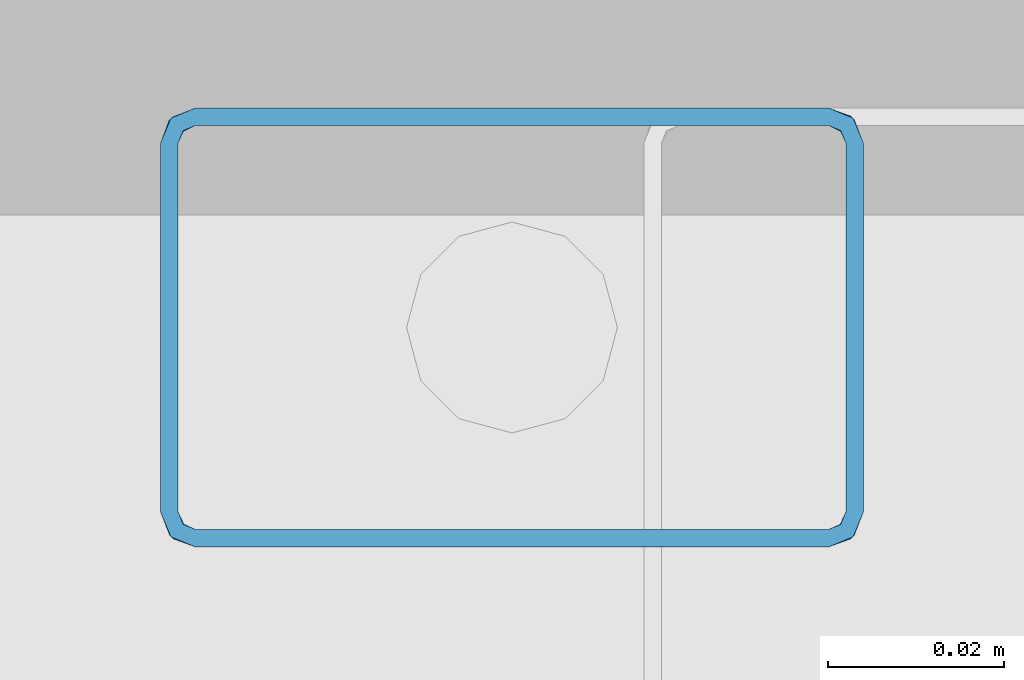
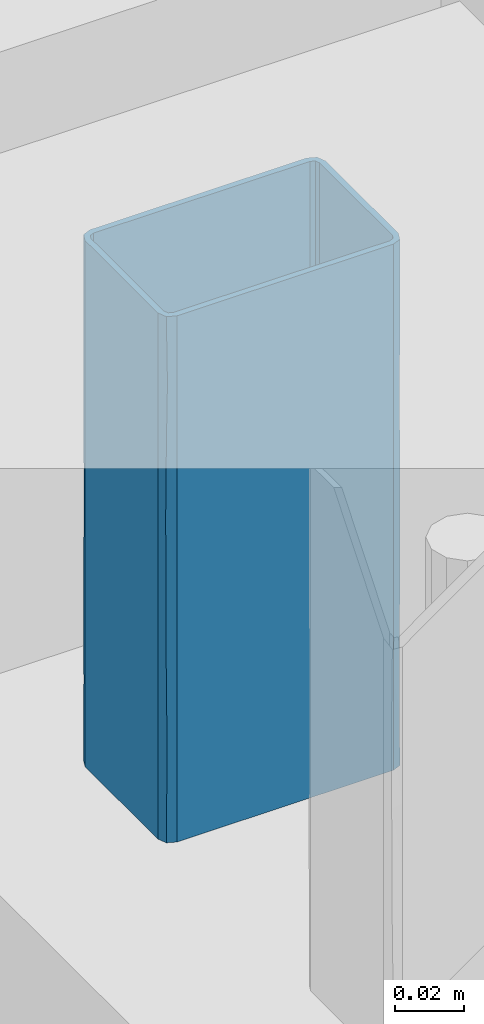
# One storey, part 141 of 186: 1 beam.
"""IFC4X3_ADD2 building model written with IfcOpenShell, lengths in millimetres."""

from ifc_helpers import new_model, si_unit, direction, frame, origin_with_axes, place, context, subcontext, project, spatial, polygons, element, save


model = new_model("IFC4X3_ADD2")

# Units and contexts
model_context = context("Model", 3, precision=1e-05, world=origin_with_axes(), true_north=direction((0.0, 1.0)))
body_context = subcontext(model_context, "Body", "Model", "MODEL_VIEW")
ifc_project = project(units=[si_unit("LENGTHUNIT", "METRE", prefix="MILLI"), si_unit("AREAUNIT", "SQUARE_METRE"), si_unit("VOLUMEUNIT", "CUBIC_METRE"), si_unit("PLANEANGLEUNIT", "RADIAN"), si_unit("TIMEUNIT", "SECOND"), si_unit("MASSUNIT", "GRAM")], contexts=[model_context])

# Site, building, storey
site_placement = place(None, origin_with_axes())
site = spatial("IfcSite", under=ifc_project, at=site_placement, Name="Site", CompositionType="ELEMENT")
building_placement = place(site_placement, origin_with_axes())
building = spatial("IfcBuilding", under=site, at=building_placement, Name="IFC Building Story")
storey_placement = place(building_placement, frame((0.0, 0.0, 4370.0), z_axis=(0.0, 0.0, 1.0), x_axis=(1.0, 0.0, 0.0)))
storey = spatial("IfcBuildingStorey", under=building, at=storey_placement, Name="ETAGE 10 (1)", Elevation=4370.0)

# Beam
beam_placement = place(storey_placement, frame((0.0, 0.0, -4370.0), z_axis=(0.0, 0.0, 1.0), x_axis=(1.0, 0.0, 0.0)))
element("IfcBeam", 1, at=beam_placement, inside=storey, Name="PS9", ObjectType="K50*80*2", context=body_context, shape_type="Tessellation", body=[
    polygons([(39874.18900000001, -14270.99999999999, 7549.598981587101), (39876.18900000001, -14270.99999999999, 7549.598981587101), (39873.60321356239, -14272.41421356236, 7549.598981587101), (39874.18900000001, -14228.99999999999, 7549.598981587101), (39876.18900000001, -14228.99999999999, 7549.598981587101), (39873.60321356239, -14227.58578643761, 7549.598981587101), (39875.01742712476, -14226.17157287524, 7549.598981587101), (39872.18900000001, -14224.99999999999, 7549.598981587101), (39872.18900000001, -14226.99999999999, 7549.598981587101), (39800.18900000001, -14224.99999999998, 7549.598981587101), (39800.18900000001, -14226.99999999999, 7549.598981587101), (39798.77478643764, -14227.58578643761, 7549.598981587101), (39797.36057287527, -14226.17157287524, 7549.598981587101), (39796.18900000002, -14228.99999999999, 7549.598981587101), (39798.18900000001, -14228.99999999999, 7549.598981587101), (39796.18900000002, -14270.99999999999, 7549.598981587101), (39798.18900000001, -14270.99999999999, 7549.598981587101), (39798.77478643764, -14272.41421356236, 7549.598981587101), (39797.36057287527, -14273.82842712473, 7549.598981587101), (39800.18900000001, -14274.99999999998, 7549.598981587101), (39800.18900000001, -14272.99999999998, 7549.598981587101), (39872.18900000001, -14272.99999999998, 7549.598981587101), (39872.18900000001, -14274.99999999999, 7549.598981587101), (39875.01742712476, -14273.82842712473, 7549.598981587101), (39798.18900000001, -14270.99999999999, 7734.598981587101), (39796.18900000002, -14270.99999999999, 7734.598981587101), (39798.77478643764, -14272.41421356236, 7734.598981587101), (39798.18900000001, -14228.99999999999, 7734.598981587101), (39796.18900000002, -14228.99999999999, 7734.598981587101), (39798.77478643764, -14227.58578643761, 7734.598981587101), (39797.36057287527, -14226.17157287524, 7734.598981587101), (39800.18900000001, -14224.99999999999, 7734.598981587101), (39800.18900000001, -14226.99999999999, 7734.598981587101), (39872.18900000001, -14224.99999999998, 7734.598981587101), (39872.18900000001, -14226.99999999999, 7734.598981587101), (39873.60321356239, -14227.58578643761, 7734.598981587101), (39875.01742712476, -14226.17157287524, 7734.598981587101), (39876.18900000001, -14228.99999999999, 7734.598981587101), (39874.18900000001, -14228.99999999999, 7734.598981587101), (39876.18900000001, -14270.99999999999, 7734.598981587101), (39874.18900000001, -14270.99999999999, 7734.598981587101), (39873.60321356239, -14272.41421356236, 7734.598981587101), (39875.01742712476, -14273.82842712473, 7734.598981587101), (39872.18900000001, -14274.99999999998, 7734.598981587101), (39872.18900000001, -14272.99999999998, 7734.598981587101), (39800.18900000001, -14272.99999999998, 7734.598981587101), (39800.18900000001, -14274.99999999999, 7734.598981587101), (39797.36057287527, -14273.82842712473, 7734.598981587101), (39800.18900000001, -14224.99999999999, 7567.057500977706), (39800.18900000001, -14224.99999999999, 7595.848981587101), (39800.18900000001, -14224.99999999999, 7618.973979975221), (39800.18900000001, -14224.99999999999, 7642.098981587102), (39800.18900000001, -14224.99999999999, 7665.22398319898), (39800.18900000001, -14224.99999999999, 7688.348981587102), (39800.18900000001, -14224.99999999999, 7717.140462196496), (39872.18900000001, -14224.99999999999, 7699.681936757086), (39872.18900000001, -14224.99999999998, 7677.016027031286), (39872.18900000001, -14224.99999999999, 7648.224549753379), (39872.18900000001, -14224.99999999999, 7619.433072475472), (39872.18900000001, -14224.99999999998, 7584.516026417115), (39874.87113952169, -14226.03248798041, 7688.348979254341), (39876.18900000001, -14228.99999999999, 7717.140460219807), (39876.18900000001, -14228.99999999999, 7567.057505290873), (39875.13732995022, -14226.29678885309, 7578.945875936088), (39875.13076139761, -14226.28964211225, 7653.661479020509), (39876.18900000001, -14228.99999999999, 7665.223981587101), (39875.13085629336, -14226.28974511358, 7628.466971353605), (39874.76834546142, -14225.94271738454, 7711.526446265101), (39876.18900000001, -14228.99999999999, 7688.348981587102), (39874.75782180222, -14225.93386977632, 7602.891747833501), (39876.18900000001, -14228.99999999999, 7642.098981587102), (39876.18900000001, -14228.99999999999, 7618.9739815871), (39876.18900000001, -14228.99999999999, 7595.848981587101), (39876.18900000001, -14270.99999999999, 7717.140458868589), (39876.18900000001, -14270.99999999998, 7688.348981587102), (39876.18900000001, -14270.99999999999, 7665.223981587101), (39876.18900000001, -14270.99999999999, 7642.098981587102), (39876.18900000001, -14270.99999999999, 7618.9739815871), (39876.18900000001, -14270.99999999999, 7595.848981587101), (39876.18900000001, -14270.99999999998, 7567.057504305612), (39875.13733021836, -14273.70321085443, 7705.252077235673), (39874.76834551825, -14274.05728256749, 7572.671514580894), (39874.87113952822, -14273.96751201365, 7595.848979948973), (39872.18900000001, -14274.99999999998, 7584.516027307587), (39872.18900000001, -14274.99999999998, 7607.181936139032), (39875.13076137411, -14273.71035791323, 7630.536479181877), (39872.18900000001, -14274.99999999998, 7699.681935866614), (39874.75782193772, -14274.06613011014, 7681.306206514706), (39875.13085619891, -14273.71025498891, 7655.73098495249), (39872.18900000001, -14274.99999999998, 7664.764890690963), (39872.18900000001, -14274.99999999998, 7635.973413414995), (39800.18900000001, -14274.99999999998, 7699.681936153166), (39800.18900000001, -14274.99999999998, 7670.890458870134), (39800.18900000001, -14274.99999999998, 7642.098981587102), (39800.18900000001, -14274.99999999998, 7618.973981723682), (39800.18900000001, -14274.99999999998, 7595.848981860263), (39800.18900000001, -14274.99999999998, 7567.057504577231), (39796.18900000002, -14270.99999999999, 7584.516027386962), (39796.18900000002, -14270.99999999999, 7619.433073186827), (39797.34856484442, -14273.81636789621, 7607.411479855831), (39796.18900000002, -14270.99999999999, 7699.681935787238), (39797.36057299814, -14273.8284272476, 7688.348976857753), (39797.60086179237, -14274.04984272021, 7711.473977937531), (39797.53711678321, -14273.99458100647, 7583.376471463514), (39797.22149317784, -14273.68214527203, 7663.470051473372), (39797.29673344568, -14273.76311313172, 7640.418718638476), (39796.18900000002, -14270.99999999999, 7677.01602659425), (39796.18900000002, -14270.99999999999, 7648.224549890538), (39796.18900000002, -14228.99999999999, 7699.681936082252), (39796.18900000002, -14228.99999999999, 7677.016027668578), (39796.18900000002, -14228.99999999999, 7648.224550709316), (39796.18900000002, -14228.99999999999, 7619.433072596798), (39796.18900000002, -14228.99999999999, 7584.516027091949), (39797.22148794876, -14226.31786051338, 7688.348978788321), (39797.48578884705, -14226.05167005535, 7578.945875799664), (39797.4786421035, -14226.05823861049, 7653.661478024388), (39797.47874509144, -14226.05814372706, 7628.466970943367), (39797.13171738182, -14226.42065454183, 7711.526445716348), (39797.12286975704, -14226.43117822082, 7602.891747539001), (39798.82900168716, -14227.53357421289, 7625.929039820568), (39798.18900000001, -14228.99999999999, 7623.66922028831), (39798.87417837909, -14227.49293526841, 7613.583468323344), (39798.61029313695, -14227.77212189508, 7664.531819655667), (39798.7117213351, -14227.65179832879, 7653.749277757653), (39800.18900000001, -14226.99999999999, 7665.223981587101), (39798.82900170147, -14227.53357419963, 7693.738959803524), (39798.18900000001, -14228.99999999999, 7702.259100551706), (39798.18900000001, -14228.99999999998, 7691.479140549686), (39798.18900000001, -14228.99999999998, 7680.699180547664), (39798.70209668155, -14227.6624206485, 7641.817961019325), (39800.18900000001, -14226.99999999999, 7642.098981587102), (39800.18900000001, -14226.99999999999, 7722.253941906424), (39798.77478646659, -14227.58578640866, 7717.646499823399), (39800.18900000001, -14226.99999999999, 7709.90890222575), (39798.78342951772, -14227.57719586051, 7705.830626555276), (39798.18900000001, -14228.99999999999, 7722.25394171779), (39798.18900000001, -14228.99999999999, 7561.94402094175), (39798.77478641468, -14227.58578646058, 7568.11654096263), (39800.18900000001, -14226.99999999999, 7561.944021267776), (39798.18900000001, -14228.99999999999, 7636.014260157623), (39798.18900000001, -14228.99999999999, 7586.634100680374), (39798.72836652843, -14227.63378264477, 7580.461580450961), (39798.77478639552, -14227.58578647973, 7592.806619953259), (39798.71633825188, -14227.64675671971, 7675.309197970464), (39800.18900000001, -14226.99999999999, 7688.348981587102), (39798.18900000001, -14228.99999999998, 7598.979140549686), (39798.18900000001, -14228.99999999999, 7574.289060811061), (39800.18900000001, -14226.99999999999, 7586.63410062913), (39800.18900000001, -14226.99999999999, 7574.289060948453), (39798.18900000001, -14228.99999999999, 7713.039061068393), (39800.18900000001, -14226.99999999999, 7699.128941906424), (39798.18900000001, -14228.99999999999, 7659.139259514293), (39798.18900000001, -14228.99999999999, 7648.359299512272), (39798.18900000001, -14228.99999999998, 7669.919220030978), (39800.18900000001, -14226.99999999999, 7653.661481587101), (39800.18900000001, -14226.99999999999, 7631.319021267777), (39800.18900000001, -14226.99999999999, 7676.786481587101), (39800.18900000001, -14226.99999999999, 7620.539060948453), (39798.18900000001, -14228.99999999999, 7611.324180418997), (39798.633445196, -14227.74292034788, 7603.287688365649), (39800.18900000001, -14226.99999999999, 7609.759100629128), (39800.18900000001, -14226.99999999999, 7598.979140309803), (39798.18900000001, -14270.99999999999, 7722.253941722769), (39798.18900000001, -14270.99999999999, 7709.908901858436), (39798.18900000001, -14270.99999999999, 7699.128941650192), (39798.18900000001, -14270.99999999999, 7688.348981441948), (39798.18900000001, -14270.99999999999, 7676.786481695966), (39798.18900000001, -14270.99999999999, 7665.223981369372), (39798.18900000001, -14270.99999999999, 7653.661481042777), (39798.18900000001, -14270.99999999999, 7642.098981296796), (39798.18900000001, -14270.99999999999, 7630.536481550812), (39798.18900000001, -14270.99999999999, 7618.973981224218), (39798.18900000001, -14270.99999999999, 7607.411480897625), (39798.18900000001, -14270.99999999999, 7595.848981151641), (39798.18900000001, -14270.99999999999, 7585.069020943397), (39798.18900000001, -14270.99999999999, 7574.289060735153), (39798.18900000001, -14270.99999999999, 7561.944021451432), (39798.70496062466, -14272.3407561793, 7659.44273014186), (39798.66485584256, -14272.29498439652, 7647.880618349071), (39798.87424681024, -14272.50712443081, 7621.237918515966), (39798.70296043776, -14272.33853891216, 7636.317730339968), (39800.18900000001, -14272.99999999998, 7625.058702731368), (39800.18900000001, -14272.99999999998, 7561.944020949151), (39798.77478644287, -14272.41421356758, 7566.551461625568), (39800.18900000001, -14272.99999999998, 7571.158902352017), (39798.72257418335, -14272.35999828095, 7579.67904054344), (39798.70041971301, -14272.33571281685, 7694.823087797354), (39798.71734898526, -14272.35434238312, 7682.567730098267), (39800.18900000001, -14272.99999999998, 7648.18370400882), (39798.73451716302, -14272.37276351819, 7591.347273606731), (39800.18900000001, -14272.99999999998, 7581.938862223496), (39800.18900000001, -14272.99999999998, 7722.25394222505), (39800.18900000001, -14272.99999999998, 7685.218823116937), (39798.77478642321, -14272.41421354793, 7716.08142123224), (39800.18900000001, -14272.99999999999, 7709.908901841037), (39800.18900000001, -14272.99999999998, 7672.873782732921), (39798.66529696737, -14272.29550340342, 7671.008022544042), (39800.18900000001, -14272.99999999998, 7660.528743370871), (39798.83575669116, -14272.47266172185, 7608.888762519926), (39800.18900000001, -14272.99999999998, 7614.278742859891), (39800.18900000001, -14272.99999999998, 7603.498782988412), (39800.18900000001, -14272.99999999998, 7592.718822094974), (39800.18900000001, -14272.99999999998, 7697.563862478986), (39798.91915055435, -14272.54514801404, 7705.388109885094), (39800.18900000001, -14272.99999999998, 7635.838663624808), (39872.18900000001, -14272.99999999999, 7722.253942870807), (39872.18900000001, -14272.99999999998, 7711.473981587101), (39872.18900000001, -14272.99999999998, 7699.9114815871), (39872.18900000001, -14272.99999999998, 7688.348981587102), (39872.18900000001, -14272.99999999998, 7676.786481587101), (39872.18900000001, -14272.99999999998, 7665.223981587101), (39872.18900000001, -14272.99999999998, 7653.661481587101), (39872.18900000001, -14272.99999999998, 7642.098981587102), (39872.18900000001, -14272.99999999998, 7630.536481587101), (39872.18900000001, -14272.99999999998, 7618.9739815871), (39872.18900000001, -14272.99999999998, 7607.411481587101), (39872.18900000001, -14272.99999999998, 7595.848981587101), (39872.18900000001, -14272.99999999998, 7585.069020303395), (39872.18900000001, -14272.99999999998, 7574.289060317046), (39872.18900000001, -14272.99999999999, 7561.944020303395), (39873.52975615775, -14272.48403939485, 7659.442730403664), (39873.48398437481, -14272.52414417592, 7647.880618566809), (39873.69612441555, -14272.31475320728, 7621.237918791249), (39873.52753889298, -14272.48603957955, 7636.317730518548), (39874.18900000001, -14270.99999999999, 7625.058703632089), (39873.47519377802, -14272.53156964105, 7705.518256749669), (39874.18900000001, -14270.99999999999, 7561.944022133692), (39873.60321356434, -14272.41421356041, 7566.551461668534), (39874.18900000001, -14270.99999999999, 7571.158902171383), (39874.18900000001, -14270.99999999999, 7722.253942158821), (39873.54899827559, -14272.46642582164, 7579.679040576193), (39874.18900000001, -14270.99999999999, 7685.218822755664), (39873.55431837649, -14272.46147382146, 7694.130230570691), (39874.18900000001, -14270.99999999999, 7697.563862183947), (39873.67461845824, -14272.33900627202, 7679.046301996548), (39873.56176351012, -14272.45448284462, 7591.347273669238), (39874.18900000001, -14270.99999999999, 7581.938862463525), (39874.18900000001, -14270.99999999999, 7709.908902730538), (39873.60321354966, -14272.41421357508, 7716.86396120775), (39874.18900000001, -14270.99999999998, 7648.183703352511), (39874.18900000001, -14270.99999999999, 7672.873783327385), (39874.18900000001, -14270.99999999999, 7660.528742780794), (39873.66166170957, -14272.35324332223, 7608.888762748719), (39874.18900000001, -14270.99999999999, 7614.278743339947), (39874.18900000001, -14270.99999999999, 7603.498783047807), (39874.18900000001, -14270.99999999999, 7592.718822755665), (39874.18900000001, -14270.99999999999, 7635.838663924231), (39874.18900000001, -14228.99999999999, 7722.253941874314), (39874.18900000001, -14228.99999999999, 7709.908902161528), (39874.18900000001, -14228.99999999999, 7697.563862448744), (39874.18900000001, -14228.99999999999, 7685.218822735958), (39874.18900000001, -14228.99999999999, 7672.873783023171), (39874.18900000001, -14228.99999999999, 7660.528743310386), (39874.18900000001, -14228.99999999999, 7648.183703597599), (39874.18900000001, -14228.99999999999, 7635.838663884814), (39874.18900000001, -14228.99999999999, 7625.0587035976), (39874.18900000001, -14228.99999999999, 7614.278743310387), (39874.18900000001, -14228.99999999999, 7603.498783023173), (39874.18900000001, -14228.99999999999, 7592.718822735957), (39874.18900000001, -14228.99999999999, 7581.938862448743), (39874.18900000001, -14228.99999999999, 7571.158902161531), (39874.18900000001, -14228.99999999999, 7561.944021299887), (39873.76770674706, -14227.77212174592, 7619.666140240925), (39873.66627859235, -14227.65179824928, 7630.448682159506), (39872.18900000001, -14226.99999999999, 7618.973981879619), (39873.5489982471, -14227.5335741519, 7658.268919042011), (39873.50382159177, -14227.49293524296, 7670.614489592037), (39873.60321360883, -14227.58578648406, 7716.081418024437), (39873.60321362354, -14227.58578649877, 7702.876051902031), (39872.18900000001, -14226.99999999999, 7709.908902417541), (39872.18900000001, -14226.99999999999, 7642.098981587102), (39873.67590326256, -14227.66242058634, 7642.379998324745), (39873.54899825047, -14227.53357415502, 7590.459000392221), (39873.59457048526, -14227.57719586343, 7578.367333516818), (39872.18900000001, -14226.99999999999, 7574.289060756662), (39873.60321356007, -14227.58578643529, 7566.551461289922), (39873.66166167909, -14227.64675664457, 7608.888761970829), (39872.18900000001, -14226.99999999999, 7595.848981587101), (39872.18900000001, -14226.99999999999, 7697.563862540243), (39873.60321352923, -14227.58578640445, 7690.510053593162), (39872.18900000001, -14226.99999999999, 7722.253941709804), (39872.18900000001, -14226.99999999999, 7561.944021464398), (39872.18900000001, -14226.99999999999, 7585.069021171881), (39872.18900000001, -14226.99999999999, 7630.536482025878), (39872.18900000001, -14226.99999999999, 7652.878942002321), (39872.18900000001, -14226.99999999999, 7607.41148173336), (39872.18900000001, -14226.99999999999, 7663.658901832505), (39872.18900000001, -14226.99999999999, 7674.438862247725), (39872.18900000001, -14226.99999999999, 7685.218822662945)], [[[1, 2, 3]], [[2, 1, 4]], [[4, 5, 2]], [[6, 5, 4]], [[7, 5, 6]], [[6, 8, 7]], [[6, 9, 8]], [[8, 9, 10]], [[11, 10, 9]], [[11, 12, 10]], [[10, 12, 13]], [[14, 13, 12]], [[14, 12, 15]], [[14, 15, 16]], [[17, 16, 15]], [[18, 16, 17]], [[16, 18, 19]], [[18, 20, 19]], [[21, 20, 18]], [[20, 21, 22]], [[3, 23, 22]], [[22, 23, 20]], [[3, 2, 24]], [[23, 3, 24]], [[25, 26, 27]], [[26, 25, 28]], [[28, 29, 26]], [[30, 29, 28]], [[31, 29, 30]], [[30, 32, 31]], [[30, 33, 32]], [[32, 33, 34]], [[35, 34, 33]], [[35, 36, 34]], [[34, 36, 37]], [[38, 37, 36]], [[38, 36, 39]], [[38, 39, 40]], [[41, 40, 39]], [[42, 40, 41]], [[40, 42, 43]], [[42, 44, 43]], [[45, 44, 42]], [[44, 45, 46]], [[27, 47, 46]], [[46, 47, 44]], [[27, 26, 48]], [[47, 27, 48]], [[55, 32, 34]], [[56, 57, 54]], [[54, 55, 34]], [[54, 34, 56]], [[57, 53, 54]], [[57, 58, 52]], [[57, 52, 53]], [[58, 59, 51]], [[58, 51, 52]], [[59, 60, 50]], [[59, 50, 51]], [[60, 8, 49]], [[60, 49, 50]], [[8, 10, 49]], [[61, 57, 56]], [[37, 38, 62]], [[63, 5, 7]], [[7, 8, 64]], [[61, 65, 57]], [[66, 65, 61]], [[67, 59, 58]], [[61, 68, 69]], [[61, 56, 68]], [[8, 60, 64]], [[67, 70, 59]], [[34, 37, 68]], [[64, 60, 70]], [[68, 62, 69]], [[58, 65, 67]], [[65, 66, 71]], [[61, 69, 66]], [[65, 71, 67]], [[57, 65, 58]], [[70, 72, 73]], [[72, 70, 67]], [[64, 73, 63]], [[60, 59, 70]], [[34, 68, 56]], [[62, 68, 37]], [[67, 71, 72]], [[73, 64, 70]], [[7, 64, 63]], [[62, 38, 40]], [[62, 40, 74]], [[74, 75, 69]], [[74, 69, 62]], [[75, 76, 66]], [[75, 66, 69]], [[76, 77, 71]], [[76, 71, 66]], [[77, 78, 72]], [[77, 72, 71]], [[78, 79, 73]], [[78, 73, 72]], [[79, 80, 63]], [[79, 63, 73]], [[80, 2, 5]], [[80, 5, 63]], [[43, 44, 81]], [[82, 79, 83]], [[84, 83, 85]], [[82, 80, 79]], [[83, 86, 85]], [[24, 2, 80]], [[74, 40, 43]], [[78, 86, 83]], [[81, 44, 87]], [[87, 88, 81]], [[89, 90, 91]], [[89, 88, 90]], [[23, 24, 82]], [[83, 84, 82]], [[91, 86, 89]], [[86, 78, 77]], [[83, 79, 78]], [[86, 77, 89]], [[85, 86, 91]], [[88, 76, 75]], [[76, 88, 89]], [[81, 75, 74]], [[87, 90, 88]], [[23, 82, 84]], [[80, 82, 24]], [[89, 77, 76]], [[75, 81, 88]], [[43, 81, 74]], [[87, 44, 47]], [[87, 47, 92]], [[92, 93, 90]], [[92, 90, 87]], [[93, 94, 91]], [[93, 91, 90]], [[95, 96, 85]], [[85, 91, 94]], [[85, 94, 95]], [[96, 84, 85]], [[97, 20, 23]], [[97, 23, 84]], [[84, 96, 97]], [[98, 16, 19]], [[99, 98, 100]], [[101, 102, 103]], [[19, 97, 104]], [[48, 103, 47]], [[94, 105, 106]], [[93, 102, 105]], [[96, 100, 104]], [[105, 102, 107]], [[26, 101, 103]], [[100, 106, 99]], [[19, 20, 97]], [[101, 107, 102]], [[105, 94, 93]], [[103, 102, 92]], [[93, 92, 102]], [[107, 108, 105]], [[105, 108, 106]], [[47, 103, 92]], [[103, 48, 26]], [[108, 99, 106]], [[96, 95, 100]], [[100, 95, 106]], [[95, 94, 106]], [[104, 100, 98]], [[19, 104, 98]], [[97, 96, 104]], [[101, 26, 29]], [[101, 29, 109]], [[109, 110, 107]], [[109, 107, 101]], [[110, 111, 108]], [[110, 108, 107]], [[111, 112, 99]], [[111, 99, 108]], [[112, 113, 98]], [[112, 98, 99]], [[113, 14, 16]], [[113, 16, 98]], [[114, 110, 109]], [[31, 32, 55]], [[49, 10, 13]], [[13, 14, 115]], [[114, 116, 110]], [[53, 116, 114]], [[117, 112, 111]], [[114, 118, 54]], [[114, 109, 118]], [[14, 113, 115]], [[117, 119, 112]], [[29, 31, 118]], [[115, 113, 119]], [[118, 55, 54]], [[111, 116, 117]], [[116, 53, 52]], [[114, 54, 53]], [[116, 52, 117]], [[110, 116, 111]], [[119, 51, 50]], [[51, 119, 117]], [[115, 50, 49]], [[113, 112, 119]], [[29, 118, 109]], [[55, 118, 31]], [[117, 52, 51]], [[50, 115, 119]], [[13, 115, 49]], [[120, 121, 122]], [[123, 124, 125]], [[126, 127, 128, 129]], [[124, 130, 131]], [[132, 30, 133]], [[134, 133, 135]], [[30, 28, 136]], [[137, 15, 12]], [[138, 12, 139]], [[120, 130, 140]], [[141, 142, 143]], [[144, 145, 126]], [[141, 143, 146]], [[137, 138, 147]], [[148, 142, 149]], [[30, 136, 133]], [[150, 133, 136]], [[12, 11, 139]], [[132, 33, 30]], [[12, 138, 137]], [[133, 134, 132]], [[150, 127, 135]], [[135, 126, 151]], [[150, 135, 133]], [[151, 126, 145]], [[152, 153, 124]], [[129, 154, 144]], [[124, 131, 155, 125]], [[130, 120, 156]], [[144, 154, 123]], [[157, 145, 144, 125]], [[129, 144, 126]], [[152, 123, 154]], [[158, 120, 122]], [[142, 138, 149]], [[142, 141, 147]], [[149, 138, 139]], [[159, 122, 121]], [[153, 130, 124]], [[159, 160, 122]], [[156, 120, 158]], [[121, 120, 140]], [[143, 160, 146]], [[161, 158, 122]], [[143, 162, 160]], [[148, 162, 143]], [[143, 142, 148]], [[138, 142, 147]], [[144, 123, 125]], [[124, 123, 152]], [[134, 135, 151]], [[135, 127, 126]], [[146, 160, 159]], [[162, 161, 160]], [[161, 122, 160]], [[156, 131, 130]], [[140, 130, 153]], [[136, 28, 25]], [[136, 25, 163]], [[163, 164, 150]], [[163, 150, 136]], [[164, 165, 127]], [[164, 127, 150]], [[165, 166, 128]], [[165, 128, 127]], [[166, 167, 129]], [[166, 129, 128]], [[167, 168, 154]], [[167, 154, 129]], [[168, 169, 152]], [[168, 152, 154]], [[169, 153, 152]], [[170, 171, 140]], [[140, 153, 169]], [[140, 169, 170]], [[171, 172, 121]], [[171, 121, 140]], [[172, 173, 159]], [[172, 159, 121]], [[173, 174, 146]], [[173, 146, 159]], [[174, 175, 141]], [[174, 141, 146]], [[175, 176, 147]], [[175, 147, 141]], [[176, 177, 137]], [[176, 137, 147]], [[177, 17, 15]], [[177, 15, 137]], [[178, 179, 169]], [[180, 181, 182]], [[163, 25, 27]], [[18, 17, 177]], [[183, 184, 185]], [[176, 175, 186]], [[187, 188, 166]], [[166, 188, 167]], [[189, 179, 178]], [[190, 186, 175]], [[186, 190, 191]], [[183, 21, 18]], [[46, 192, 27]], [[187, 193, 188]], [[163, 194, 164]], [[195, 194, 192]], [[185, 186, 191]], [[27, 194, 163]], [[196, 197, 188]], [[169, 168, 178]], [[18, 177, 176, 184]], [[198, 189, 178]], [[18, 184, 183]], [[186, 185, 184]], [[199, 200, 201]], [[176, 186, 184]], [[202, 191, 190, 201]], [[27, 192, 194]], [[190, 199, 201]], [[179, 181, 170]], [[197, 196, 198]], [[178, 168, 197]], [[193, 196, 188]], [[197, 167, 188]], [[187, 203, 193]], [[195, 204, 194]], [[165, 164, 204]], [[180, 199, 172]], [[172, 199, 174, 173]], [[199, 190, 174]], [[180, 200, 199]], [[205, 182, 181, 189]], [[171, 181, 180]], [[204, 195, 203]], [[187, 165, 204]], [[170, 181, 171]], [[180, 172, 171]], [[169, 179, 170]], [[181, 179, 189]], [[167, 197, 168]], [[198, 178, 197]], [[182, 200, 180]], [[187, 166, 165]], [[194, 204, 164]], [[187, 204, 203]], [[174, 190, 175]], [[192, 46, 45]], [[192, 45, 206]], [[206, 207, 195]], [[206, 195, 192]], [[207, 208, 203]], [[207, 203, 195]], [[208, 209, 193]], [[208, 193, 203]], [[209, 210, 196]], [[209, 196, 193]], [[210, 211, 198]], [[210, 198, 196]], [[211, 212, 189]], [[211, 189, 198]], [[213, 214, 205]], [[213, 205, 189]], [[189, 212, 213]], [[214, 182, 205]], [[214, 215, 200]], [[214, 200, 182]], [[215, 216, 201]], [[215, 201, 200]], [[216, 217, 202]], [[216, 202, 201]], [[217, 218, 191]], [[217, 191, 202]], [[218, 219, 185]], [[218, 185, 191]], [[219, 220, 183]], [[219, 183, 185]], [[220, 22, 21]], [[220, 21, 183]], [[221, 222, 212]], [[223, 224, 225]], [[208, 207, 226]], [[227, 1, 3]], [[227, 3, 228]], [[228, 229, 227]], [[42, 41, 230]], [[219, 218, 231]], [[232, 233, 234]], [[233, 235, 209]], [[208, 233, 209]], [[236, 231, 218]], [[231, 236, 237]], [[238, 226, 239]], [[206, 239, 207]], [[208, 226, 233]], [[206, 45, 42]], [[220, 219, 228]], [[228, 3, 22]], [[228, 22, 220]], [[229, 231, 237]], [[42, 230, 239]], [[42, 239, 206]], [[239, 230, 238]], [[240, 222, 221]], [[221, 235, 241]], [[212, 211, 221]], [[242, 240, 221, 241]], [[231, 229, 228]], [[243, 244, 245]], [[219, 231, 228]], [[246, 237, 236, 245]], [[241, 235, 232]], [[238, 234, 226]], [[222, 224, 213]], [[210, 209, 235, 211]], [[235, 221, 211]], [[236, 243, 245]], [[223, 243, 215]], [[215, 243, 217, 216]], [[243, 236, 217]], [[223, 244, 243]], [[247, 225, 224, 240]], [[214, 224, 223]], [[213, 224, 214]], [[223, 215, 214]], [[232, 235, 233]], [[212, 222, 213]], [[224, 222, 240]], [[234, 233, 226]], [[239, 226, 207]], [[225, 244, 223]], [[217, 236, 218]], [[230, 41, 39]], [[230, 39, 248]], [[248, 249, 238]], [[248, 238, 230]], [[249, 250, 234]], [[249, 234, 238]], [[250, 251, 232]], [[250, 232, 234]], [[251, 252, 241]], [[251, 241, 232]], [[252, 253, 242]], [[252, 242, 241]], [[253, 254, 240]], [[253, 240, 242]], [[254, 255, 247]], [[254, 247, 240]], [[255, 256, 225]], [[255, 225, 247]], [[256, 257, 244]], [[256, 244, 225]], [[257, 258, 245]], [[257, 245, 244]], [[258, 259, 246]], [[258, 246, 245]], [[259, 260, 237]], [[259, 237, 246]], [[260, 261, 229]], [[260, 229, 237]], [[261, 262, 227]], [[261, 227, 229]], [[262, 4, 1]], [[262, 1, 227]], [[263, 264, 265]], [[266, 253, 267]], [[249, 248, 268]], [[269, 268, 270]], [[271, 264, 272]], [[273, 260, 259, 258]], [[261, 260, 274]], [[275, 276, 274]], [[266, 272, 254]], [[262, 261, 276]], [[276, 6, 4]], [[276, 4, 262]], [[248, 39, 36]], [[277, 278, 273]], [[269, 279, 280]], [[35, 281, 36]], [[282, 9, 6]], [[36, 268, 248]], [[282, 6, 276]], [[281, 270, 268]], [[282, 276, 275]], [[274, 273, 283]], [[261, 274, 276]], [[283, 273, 278]], [[256, 255, 264]], [[258, 257, 277]], [[264, 271, 284, 265]], [[272, 266, 285]], [[277, 257, 263]], [[286, 278, 277, 265]], [[258, 277, 273]], [[256, 263, 257]], [[36, 281, 268]], [[249, 268, 269]], [[252, 251, 267, 253]], [[255, 272, 264]], [[287, 266, 267]], [[285, 266, 287]], [[253, 266, 254]], [[250, 249, 269]], [[280, 250, 269]], [[288, 287, 267, 289]], [[280, 289, 267]], [[277, 263, 265]], [[251, 250, 280]], [[269, 270, 279]], [[264, 263, 256]], [[275, 274, 283]], [[274, 260, 273]], [[285, 271, 272]], [[254, 272, 255]], [[251, 280, 267]], [[289, 280, 279]], [[281, 35, 33]], [[281, 33, 132]], [[132, 134, 270]], [[132, 270, 281]], [[134, 151, 279]], [[134, 279, 270]], [[151, 145, 289]], [[151, 289, 279]], [[145, 157, 288]], [[145, 288, 289]], [[157, 125, 287]], [[157, 287, 288]], [[125, 155, 285]], [[125, 285, 287]], [[155, 131, 271]], [[155, 271, 285]], [[131, 156, 284]], [[131, 284, 271]], [[156, 158, 265]], [[156, 265, 284]], [[158, 161, 286]], [[158, 286, 265]], [[161, 162, 278]], [[161, 278, 286]], [[162, 148, 283]], [[162, 283, 278]], [[148, 149, 275]], [[148, 275, 283]], [[149, 139, 282]], [[149, 282, 275]], [[139, 11, 9]], [[139, 9, 282]]]),
])

save(model, "model.ifc")
